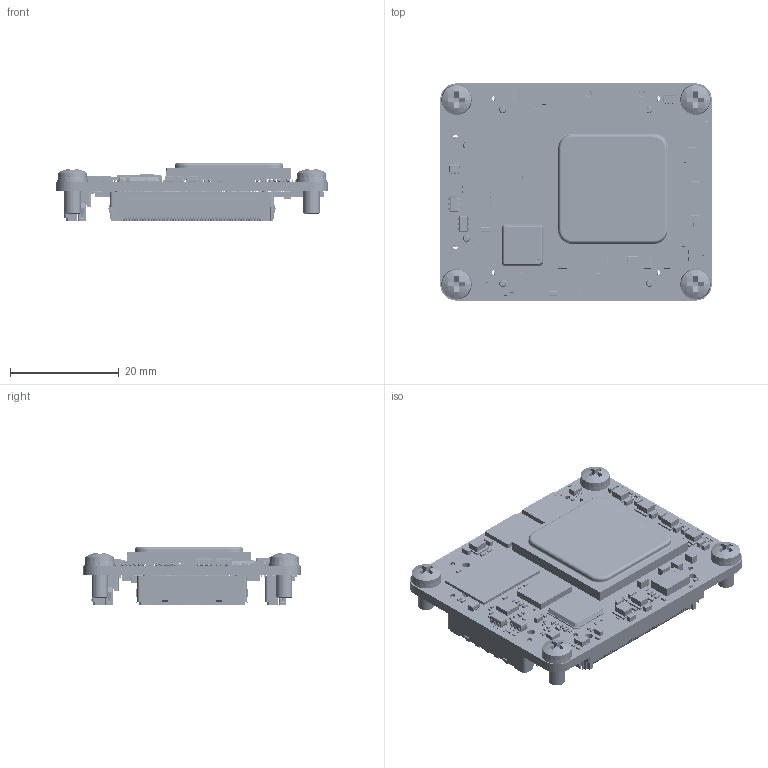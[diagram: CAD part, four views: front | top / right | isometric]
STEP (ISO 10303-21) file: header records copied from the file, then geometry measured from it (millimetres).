
FILE_DESCRIPTION(('Open CASCADE Model'),'2;1');
FILE_NAME('Open CASCADE Shape Model','2026-04-17T10:36:39',('Author'),( 'Open CASCADE'),'Open CASCADE STEP processor 7.5','Open CASCADE 7.5' ,'Unknown');
FILE_SCHEMA(('AUTOMOTIVE_DESIGN { 1 0 10303 214 1 1 1 1 }'));
Length unit declared in the file: millimetre
Products named in the file (413): PCB; Board=projectname; Open CASCADE STEP translator 7.5 1.1.1; T2=projectname; 9704770656; C148=projectname; User Library-SMD 0201 CAPACITOR; R61=projectname; RES_0603-0201; C103=projectname; User Library-SMD CAPACITOR0402; U2=projectname; 9704767728; R106=projectname; C150=projectname; R64=projectname; R104=projectname; R58=projectname; R82=projectname; U19=projectname; 9704769408; R107=projectname; R95=projectname; C145=projectname; C144=projectname; U16=projectname; 9704768496; R27=projectname; C62=projectname; C143=projectname; C142=projectname; 9704774256; C141=projectname; 9704769936; U5=projectname; 10457266272; Cylinder; 10457266320; Extruded; R94=projectname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
Assembly tree (702 placements, depth 4):
  PCB
    Board=projectname
      Open CASCADE STEP translator 7.5 1.1.1
    T2=projectname
      9704770656
    C148=projectname
      User Library-SMD 0201 CAPACITOR
    R61=projectname
      RES_0603-0201
    C103=projectname
      User Library-SMD CAPACITOR0402
    U2=projectname
      9704767728
    R106=projectname
      RES_0603-0201
    C150=projectname
      User Library-SMD 0201 CAPACITOR
    R64=projectname
      RES_0603-0201
    R104=projectname
      RES_0603-0201
    R58=projectname
      RES_0603-0201
    R82=projectname
      RES_0603-0201
    U19=projectname
      9704769408
    R107=projectname
      RES_0603-0201
    R95=projectname
      RES_0603-0201
    C145=projectname
      User Library-SMD 0201 CAPACITOR
    C144=projectname
      User Library-SMD 0201 CAPACITOR
    U16=projectname
      9704768496
    R27=projectname
      RES_0603-0201
    C62=projectname
      User Library-SMD 0201 CAPACITOR
    C143=projectname
      User Library-SMD 0201 CAPACITOR
    C142=projectname
      9704774256
    C141=projectname
      9704769936
    U5=projectname
      10457266272
        Cylinder
      10457266320
        Extruded
    R94=projectname
      9124535712
    R93=projectname
      9124535712
    R92=projectname
      9124532832
    R91=projectname
      RES_0603-0201
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Bounding box: 50 x 40 x 10.67 mm (x, y, z)
Volume: 7493.9 mm3; surface area: 19417.5 mm2
Topology: 2046 solids, 2050 shells, 26395 faces, 69406 edges, 42757 vertices
Faces by surface type: plane 16418, cylinder 6556, sphere 3298, bspline 52, cone 37, torus 34
Full cylindrical faces by diameter (mm): 0.2 x7, 0.4 x4, 0.6 x1, 0.8 x3, 1 x13, 1.32 x3, 1.45 x6, 3.2 x4
Entity records: 410857 total; most frequent: CARTESIAN_POINT 64574, ORIENTED_EDGE 53942, DIRECTION 53096, EDGE_CURVE 26971, LINE 21022, VECTOR 21022, VERTEX_POINT 18879, AXIS2_PLACEMENT_3D 16037
